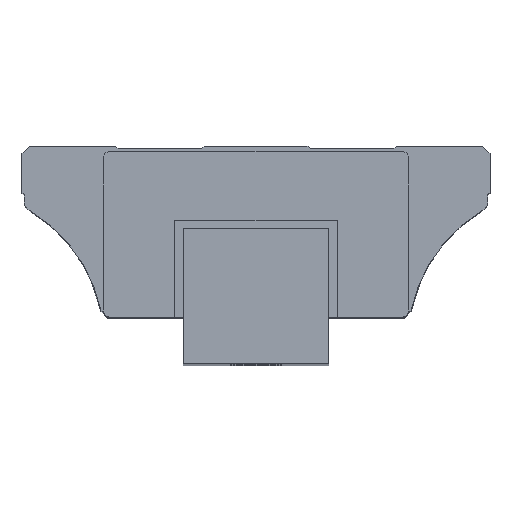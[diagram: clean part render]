
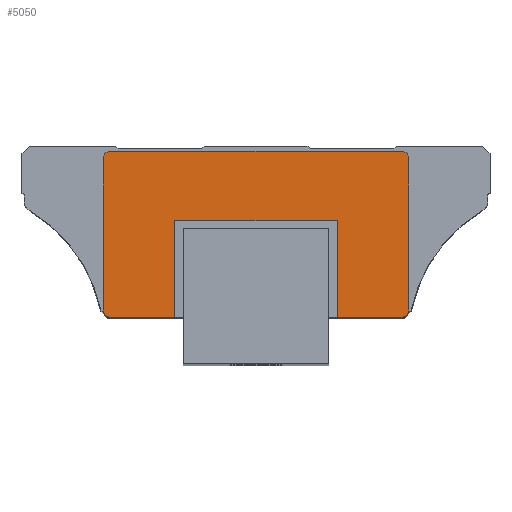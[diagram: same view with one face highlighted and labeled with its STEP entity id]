
A CAD part, top view. The second image highlights one B-rep face of the part: STEP entity #5050.
In plain terms, the highlighted planar face has unit normal (0, 0, 1).
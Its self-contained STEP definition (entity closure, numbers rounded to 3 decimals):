
#4524=CARTESIAN_POINT('',(29.6,9.0,191.0));
#4525=VERTEX_POINT('',#4524);
#4526=CARTESIAN_POINT('',(29.6,27.6,191.0));
#4527=VERTEX_POINT('',#4526);
#4528=CARTESIAN_POINT('',(29.6,9.0,191.0));
#4529=DIRECTION('',(0.0,1.0,0.0));
#4530=VECTOR('',#4529,1.0);
#4531=LINE('',#4528,#4530);
#4532=EDGE_CURVE('',#4525,#4527,#4531,.T.);
#4666=CARTESIAN_POINT('',(-1.6,27.6,191.0));
#4667=VERTEX_POINT('',#4666);
#4668=CARTESIAN_POINT('',(-1.6,9.0,191.0));
#4669=VERTEX_POINT('',#4668);
#4670=CARTESIAN_POINT('',(-1.6,27.6,191.0));
#4671=DIRECTION('',(0.0,-1.0,0.0));
#4672=VECTOR('',#4671,1.0);
#4673=LINE('',#4670,#4672);
#4674=EDGE_CURVE('',#4667,#4669,#4673,.T.);
#4706=CARTESIAN_POINT('',(29.6,27.6,191.0));
#4707=DIRECTION('',(-1.0,0.0,0.0));
#4708=VECTOR('',#4707,1.0);
#4709=LINE('',#4706,#4708);
#4710=EDGE_CURVE('',#4527,#4667,#4709,.T.);
#4754=CARTESIAN_POINT('',(41.9,41.,191.0));
#4755=VERTEX_POINT('',#4754);
#4756=CARTESIAN_POINT('',(43.4,39.5,191.0));
#4757=VERTEX_POINT('',#4756);
#4758=CARTESIAN_POINT('',(41.9,39.5,191.));
#4759=DIRECTION('',(0.,0.,-1.0));
#4760=DIRECTION('',(0.0,1.0,0.));
#4761=AXIS2_PLACEMENT_3D('',#4758,#4759,#4760);
#4762=CIRCLE('',#4761,1.5);
#4763=EDGE_CURVE('',#4755,#4757,#4762,.T.);
#4796=CARTESIAN_POINT('',(43.4,10.5,191.0));
#4797=VERTEX_POINT('',#4796);
#4798=CARTESIAN_POINT('',(43.4,39.5,191.0));
#4799=DIRECTION('',(0.0,-1.0,0.0));
#4800=VECTOR('',#4799,1.0);
#4801=LINE('',#4798,#4800);
#4802=EDGE_CURVE('',#4757,#4797,#4801,.T.);
#4827=CARTESIAN_POINT('',(41.9,9.0,191.0));
#4828=VERTEX_POINT('',#4827);
#4829=CARTESIAN_POINT('',(41.9,10.5,191.0));
#4830=DIRECTION('',(0.0,0.0,-1.0));
#4831=DIRECTION('',(1.0,0.0,0.0));
#4832=AXIS2_PLACEMENT_3D('',#4829,#4830,#4831);
#4833=CIRCLE('',#4832,1.5);
#4834=EDGE_CURVE('',#4797,#4828,#4833,.T.);
#4860=CARTESIAN_POINT('',(41.9,9.0,191.0));
#4861=DIRECTION('',(-1.0,0.0,0.0));
#4862=VECTOR('',#4861,1.0);
#4863=LINE('',#4860,#4862);
#4864=EDGE_CURVE('',#4828,#4525,#4863,.T.);
#4884=CARTESIAN_POINT('',(-13.9,9.0,191.0));
#4885=VERTEX_POINT('',#4884);
#4886=CARTESIAN_POINT('',(-1.6,9.0,191.0));
#4887=DIRECTION('',(-1.0,0.0,0.0));
#4888=VECTOR('',#4887,1.);
#4889=LINE('',#4886,#4888);
#4890=EDGE_CURVE('',#4669,#4885,#4889,.T.);
#4917=CARTESIAN_POINT('',(-15.4,10.5,191.0));
#4918=VERTEX_POINT('',#4917);
#4919=CARTESIAN_POINT('',(-13.9,10.5,191.));
#4920=DIRECTION('',(0.,0.,-1.0));
#4921=DIRECTION('',(0.,-1.0,0.));
#4922=AXIS2_PLACEMENT_3D('',#4919,#4920,#4921);
#4923=CIRCLE('',#4922,1.5);
#4924=EDGE_CURVE('',#4885,#4918,#4923,.T.);
#4950=CARTESIAN_POINT('',(-15.4,39.5,191.0));
#4951=VERTEX_POINT('',#4950);
#4952=CARTESIAN_POINT('',(-15.4,10.5,191.0));
#4953=DIRECTION('',(0.0,1.0,0.0));
#4954=VECTOR('',#4953,1.0);
#4955=LINE('',#4952,#4954);
#4956=EDGE_CURVE('',#4918,#4951,#4955,.T.);
#4981=CARTESIAN_POINT('',(-13.9,41.,191.0));
#4982=VERTEX_POINT('',#4981);
#4983=CARTESIAN_POINT('',(-13.9,39.5,191.));
#4984=DIRECTION('',(0.,0.,-1.0));
#4985=DIRECTION('',(-1.0,0.0,0.));
#4986=AXIS2_PLACEMENT_3D('',#4983,#4984,#4985);
#4987=CIRCLE('',#4986,1.5);
#4988=EDGE_CURVE('',#4951,#4982,#4987,.T.);
#5014=CARTESIAN_POINT('',(-13.9,41.,191.0));
#5015=DIRECTION('',(1.0,0.0,0.0));
#5016=VECTOR('',#5015,1.0);
#5017=LINE('',#5014,#5016);
#5018=EDGE_CURVE('',#4982,#4755,#5017,.T.);
#5031=CARTESIAN_POINT('',(-18.34,7.4,191.0));
#5032=DIRECTION('',(0.0,0.0,1.0));
#5033=DIRECTION('',(1.0,0.0,0.0));
#5034=AXIS2_PLACEMENT_3D('',#5031,#5032,#5033);
#5035=PLANE('',#5034);
#5036=ORIENTED_EDGE('',*,*,#4763,.F.);
#5037=ORIENTED_EDGE('',*,*,#5018,.F.);
#5038=ORIENTED_EDGE('',*,*,#4988,.F.);
#5039=ORIENTED_EDGE('',*,*,#4956,.F.);
#5040=ORIENTED_EDGE('',*,*,#4924,.F.);
#5041=ORIENTED_EDGE('',*,*,#4890,.F.);
#5042=ORIENTED_EDGE('',*,*,#4674,.F.);
#5043=ORIENTED_EDGE('',*,*,#4710,.F.);
#5044=ORIENTED_EDGE('',*,*,#4532,.F.);
#5045=ORIENTED_EDGE('',*,*,#4864,.F.);
#5046=ORIENTED_EDGE('',*,*,#4834,.F.);
#5047=ORIENTED_EDGE('',*,*,#4802,.F.);
#5048=EDGE_LOOP('',(#5036,#5037,#5038,#5039,#5040,#5041,#5042,#5043,#5044,#5045,#5046,#5047));
#5049=FACE_OUTER_BOUND('',#5048,.T.);
#5050=ADVANCED_FACE('',(#5049),#5035,.T.);
